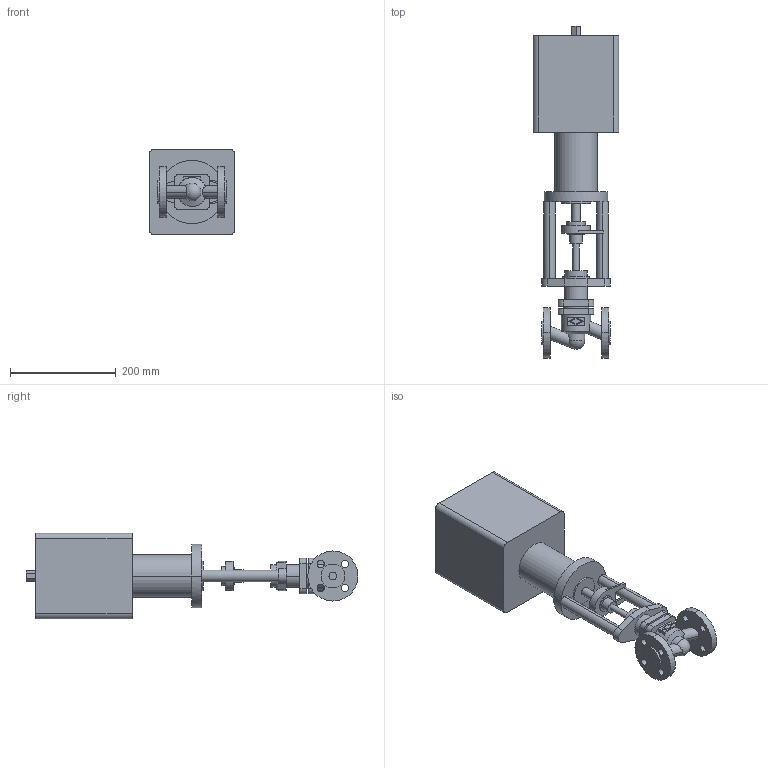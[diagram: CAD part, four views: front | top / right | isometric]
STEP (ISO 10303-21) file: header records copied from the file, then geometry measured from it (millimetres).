
FILE_DESCRIPTION( ( '' ), '1' );
FILE_NAME( 'F:/DE-SHS/TB/OR/04-Sonstiges/daten/files_3d/c000000773.stp', '2014-11-04T12:58:12', ( '' ), ( '' ), ' ', ' ', ' ' );
FILE_SCHEMA( ( 'CONFIG_CONTROL_DESIGN' ) );
Length unit declared in the file: millimetre
Products named in the file (2): 1; 2
Bounding box: 162 x 628.5 x 162 mm (x, y, z)
Volume: 6324681.5 mm3; surface area: 341277.6 mm2
Topology: 2 solids, 2 shells, 162 faces, 395 edges, 261 vertices
Faces by surface type: cylinder 82, plane 77, cone 2, sphere 1
Entity records: 5208 total; most frequent: CARTESIAN_POINT 1120, DIRECTION 886, ORIENTED_EDGE 786, EDGE_CURVE 393, AXIS2_PLACEMENT_3D 341, VERTEX_POINT 261, EDGE_LOOP 204, LINE 204
